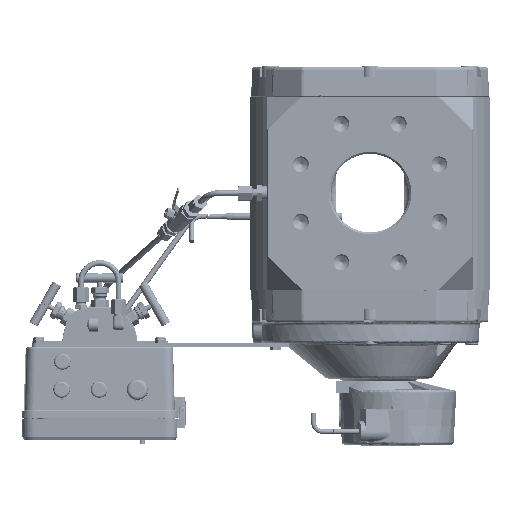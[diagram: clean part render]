
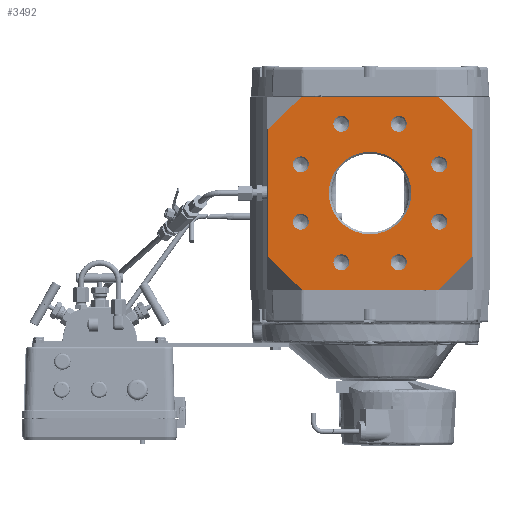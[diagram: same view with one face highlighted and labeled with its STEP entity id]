
A CAD part, front view. The second image highlights one B-rep face of the part: STEP entity #3492.
In plain terms, the highlighted planar face has unit normal (0, -1, 0).
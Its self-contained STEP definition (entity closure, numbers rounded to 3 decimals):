
#3492=ADVANCED_FACE('',(#91383,#91385,#91387,#91389,#91391,#91393,#91395,#91397,
#91399,#91401),#91403,.T.);
#91383=FACE_BOUND('',#91384,.T.);
#91384=EDGE_LOOP('',(#216825,#216826,#216827,#216828,#216829,#216830,#216831,#216832));
#91385=FACE_BOUND('',#91386,.T.);
#91386=EDGE_LOOP('',(#216833));
#91387=FACE_BOUND('',#91388,.T.);
#91388=EDGE_LOOP('',(#216834));
#91389=FACE_BOUND('',#91390,.T.);
#91390=EDGE_LOOP('',(#216835));
#91391=FACE_BOUND('',#91392,.T.);
#91392=EDGE_LOOP('',(#216836));
#91393=FACE_BOUND('',#91394,.T.);
#91394=EDGE_LOOP('',(#216837));
#91395=FACE_BOUND('',#91396,.T.);
#91396=EDGE_LOOP('',(#216838));
#91397=FACE_BOUND('',#91398,.T.);
#91398=EDGE_LOOP('',(#216839));
#91399=FACE_BOUND('',#91400,.T.);
#91400=EDGE_LOOP('',(#216840));
#91401=FACE_BOUND('',#91402,.T.);
#91402=EDGE_LOOP('',(#216841));
#91403=PLANE('',#91404);
#91404=AXIS2_PLACEMENT_3D('',#91405,#91406,#91407);
#91405=CARTESIAN_POINT('',(-160.843,-120.5,-211.));
#91406=DIRECTION('',(0.,-1.,0.));
#91407=DIRECTION('',(1.,0.,0.));
#216825=ORIENTED_EDGE('',*,*,#272963,.T.);
#216826=ORIENTED_EDGE('',*,*,#272964,.F.);
#216827=ORIENTED_EDGE('',*,*,#272779,.T.);
#216828=ORIENTED_EDGE('',*,*,#272530,.F.);
#216829=ORIENTED_EDGE('',*,*,#272943,.T.);
#216830=ORIENTED_EDGE('',*,*,#272965,.F.);
#216831=ORIENTED_EDGE('',*,*,#272966,.T.);
#216832=ORIENTED_EDGE('',*,*,#272583,.T.);
#216833=ORIENTED_EDGE('',*,*,#272967,.T.);
#216834=ORIENTED_EDGE('',*,*,#272968,.T.);
#216835=ORIENTED_EDGE('',*,*,#272969,.T.);
#216836=ORIENTED_EDGE('',*,*,#272970,.T.);
#216837=ORIENTED_EDGE('',*,*,#272971,.T.);
#216838=ORIENTED_EDGE('',*,*,#272972,.T.);
#216839=ORIENTED_EDGE('',*,*,#272973,.T.);
#216840=ORIENTED_EDGE('',*,*,#272974,.T.);
#216841=ORIENTED_EDGE('',*,*,#272975,.T.);
#272530=EDGE_CURVE('',#296567,#296299,#296569,.T.);
#272583=EDGE_CURVE('',#296672,#296670,#296673,.F.);
#272779=EDGE_CURVE('',#297034,#296299,#297035,.T.);
#272943=EDGE_CURVE('',#296567,#297227,#297228,.T.);
#272963=EDGE_CURVE('',#296670,#297266,#297267,.F.);
#272964=EDGE_CURVE('',#297034,#297266,#297268,.F.);
#272965=EDGE_CURVE('',#297269,#297227,#297270,.T.);
#272966=EDGE_CURVE('',#297269,#296672,#297271,.F.);
#272967=EDGE_CURVE('',#297272,#297272,#297273,.F.);
#272968=EDGE_CURVE('',#297274,#297274,#297275,.F.);
#272969=EDGE_CURVE('',#297276,#297276,#297277,.F.);
#272970=EDGE_CURVE('',#297278,#297278,#297279,.F.);
#272971=EDGE_CURVE('',#297280,#297280,#297281,.F.);
#272972=EDGE_CURVE('',#297282,#297282,#297283,.T.);
#272973=EDGE_CURVE('',#297284,#297284,#297285,.F.);
#272974=EDGE_CURVE('',#297286,#297286,#297287,.F.);
#272975=EDGE_CURVE('',#297288,#297288,#297289,.F.);
#296299=VERTEX_POINT('',#336719);
#296567=VERTEX_POINT('',#337383);
#296569=LINE('',#337387,#337388);
#296670=VERTEX_POINT('',#337686);
#296672=VERTEX_POINT('',#337690);
#296673=LINE('',#337691,#337692);
#297034=VERTEX_POINT('',#339361);
#297035=LINE('',#339362,#339363);
#297227=VERTEX_POINT('',#340357);
#297228=LINE('',#340358,#340359);
#297266=VERTEX_POINT('',#340455);
#297267=LINE('',#340456,#340457);
#297268=LINE('',#340459,#340460);
#297269=VERTEX_POINT('',#340462);
#297270=LINE('',#340463,#340464);
#297271=LINE('',#340466,#340467);
#297272=VERTEX_POINT('',#340469);
#297273=CIRCLE('',#340470,8.5);
#297274=VERTEX_POINT('',#340474);
#297275=CIRCLE('',#340475,8.5);
#297276=VERTEX_POINT('',#340479);
#297277=CIRCLE('',#340480,8.5);
#297278=VERTEX_POINT('',#340484);
#297279=CIRCLE('',#340485,8.5);
#297280=VERTEX_POINT('',#340489);
#297281=CIRCLE('',#340490,8.5);
#297282=VERTEX_POINT('',#340494);
#297283=CIRCLE('',#340495,44.);
#297284=VERTEX_POINT('',#340499);
#297285=CIRCLE('',#340500,8.5);
#297286=VERTEX_POINT('',#340504);
#297287=CIRCLE('',#340505,8.5);
#297288=VERTEX_POINT('',#340509);
#297289=CIRCLE('',#340510,8.5);
#336719=CARTESIAN_POINT('',(73.003,-120.5,0.));
#337383=CARTESIAN_POINT('',(-73.,-120.5,0.));
#337387=CARTESIAN_POINT('',(-73.,-120.5,0.));
#337388=VECTOR('',#337389,1.);
#337389=DIRECTION('',(1.,0.,0.));
#337686=CARTESIAN_POINT('',(73.003,-120.5,-206.));
#337690=CARTESIAN_POINT('',(-73.,-120.5,-206.));
#337691=CARTESIAN_POINT('',(73.003,-120.5,-206.));
#337692=VECTOR('',#337693,1.);
#337693=DIRECTION('',(-1.,0.,0.));
#339361=CARTESIAN_POINT('',(108.957,-120.5,-35.082));
#339362=CARTESIAN_POINT('',(108.957,-120.5,-35.082));
#339363=VECTOR('',#339364,1.);
#339364=DIRECTION('',(-0.716,0.,0.698));
#340357=CARTESIAN_POINT('',(-108.957,-120.5,-35.086));
#340358=CARTESIAN_POINT('',(-73.,-120.5,0.));
#340359=VECTOR('',#340360,1.);
#340360=DIRECTION('',(-0.716,0.,-0.698));
#340455=CARTESIAN_POINT('',(108.957,-120.5,-170.918));
#340456=CARTESIAN_POINT('',(108.957,-120.5,-170.918));
#340457=VECTOR('',#340458,1.);
#340458=DIRECTION('',(-0.716,0.,-0.698));
#340459=CARTESIAN_POINT('',(108.957,-120.5,-170.918));
#340460=VECTOR('',#340461,1.);
#340461=DIRECTION('',(0.,0.,1.));
#340462=CARTESIAN_POINT('',(-108.957,-120.5,-170.914));
#340463=CARTESIAN_POINT('',(-108.957,-120.5,-170.914));
#340464=VECTOR('',#340465,1.);
#340465=DIRECTION('',(0.,0.,1.));
#340466=CARTESIAN_POINT('',(-73.,-120.5,-206.));
#340467=VECTOR('',#340468,1.);
#340468=DIRECTION('',(-0.716,0.,0.698));
#340469=CARTESIAN_POINT('',(-24.607,-120.5,-23.097));
#340470=AXIS2_PLACEMENT_3D('',#340471,#340472,#340473);
#340471=CARTESIAN_POINT('',(-30.618,-120.5,-29.107));
#340472=DIRECTION('',(0.,-1.,0.));
#340473=DIRECTION('',(0.707,0.,0.707));
#340474=CARTESIAN_POINT('',(-79.903,-120.5,-127.607));
#340475=AXIS2_PLACEMENT_3D('',#340476,#340477,#340478);
#340476=CARTESIAN_POINT('',(-73.893,-120.5,-133.618));
#340477=DIRECTION('',(0.,-1.,0.));
#340478=DIRECTION('',(-0.707,0.,0.707));
#340479=CARTESIAN_POINT('',(24.607,-120.5,-182.903));
#340480=AXIS2_PLACEMENT_3D('',#340481,#340482,#340483);
#340481=CARTESIAN_POINT('',(30.618,-120.5,-176.893));
#340482=DIRECTION('',(0.,-1.,0.));
#340483=DIRECTION('',(-0.707,0.,-0.707));
#340484=CARTESIAN_POINT('',(79.903,-120.5,-78.393));
#340485=AXIS2_PLACEMENT_3D('',#340486,#340487,#340488);
#340486=CARTESIAN_POINT('',(73.893,-120.5,-72.382));
#340487=DIRECTION('',(0.,-1.,0.));
#340488=DIRECTION('',(0.707,0.,-0.707));
#340489=CARTESIAN_POINT('',(39.1,-120.5,-29.1));
#340490=AXIS2_PLACEMENT_3D('',#340491,#340492,#340493);
#340491=CARTESIAN_POINT('',(30.6,-120.5,-29.1));
#340492=DIRECTION('',(0.,-1.,0.));
#340493=DIRECTION('',(1.,0.,0.));
#340494=CARTESIAN_POINT('',(-44.,-120.5,-103.));
#340495=AXIS2_PLACEMENT_3D('',#340496,#340497,#340498);
#340496=CARTESIAN_POINT('',(0.,-120.5,-103.));
#340497=DIRECTION('',(0.,1.,0.));
#340498=DIRECTION('',(-1.,0.,0.));
#340499=CARTESIAN_POINT('',(73.9,-120.5,-142.1));
#340500=AXIS2_PLACEMENT_3D('',#340501,#340502,#340503);
#340501=CARTESIAN_POINT('',(73.9,-120.5,-133.6));
#340502=DIRECTION('',(0.,-1.,0.));
#340503=DIRECTION('',(0.,0.,-1.));
#340504=CARTESIAN_POINT('',(-39.1,-120.5,-176.9));
#340505=AXIS2_PLACEMENT_3D('',#340506,#340507,#340508);
#340506=CARTESIAN_POINT('',(-30.6,-120.5,-176.9));
#340507=DIRECTION('',(0.,-1.,0.));
#340508=DIRECTION('',(-1.,0.,0.));
#340509=CARTESIAN_POINT('',(-73.9,-120.5,-63.9));
#340510=AXIS2_PLACEMENT_3D('',#340511,#340512,#340513);
#340511=CARTESIAN_POINT('',(-73.9,-120.5,-72.4));
#340512=DIRECTION('',(0.,-1.,0.));
#340513=DIRECTION('',(0.,0.,1.));
